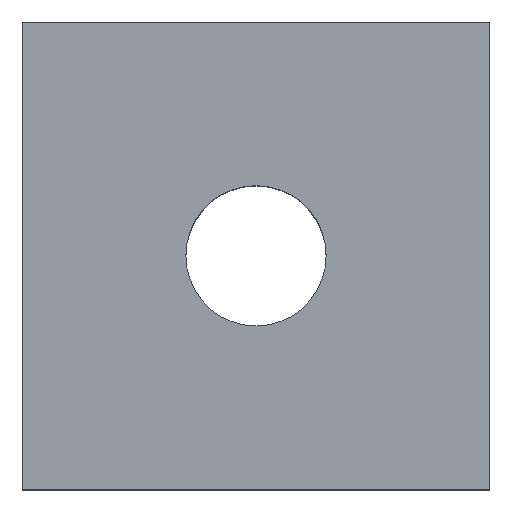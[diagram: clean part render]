
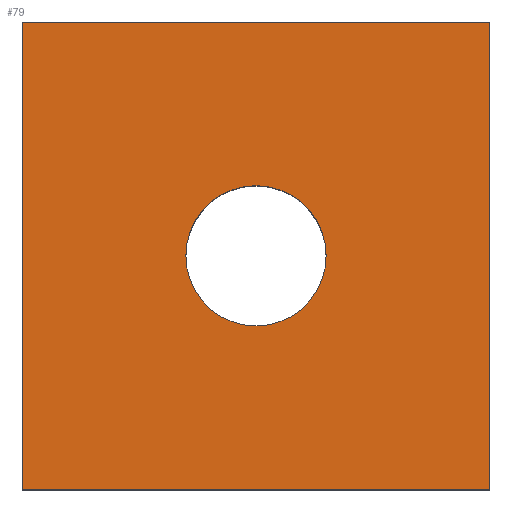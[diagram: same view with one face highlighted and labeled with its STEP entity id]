
A CAD part, top view. The second image highlights one B-rep face of the part: STEP entity #79.
In plain terms, the highlighted free-form (B-spline) face has degree [1, 1] with [2, 2] control points.
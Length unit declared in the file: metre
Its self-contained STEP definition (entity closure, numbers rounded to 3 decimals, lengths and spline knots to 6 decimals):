
#79 = ADVANCED_FACE( '', ( #93, #94 ), #95, .T. );
#93 = FACE_BOUND( '', #139, .T. );
#94 = FACE_OUTER_BOUND( '', #140, .T. );
#95 = B_SPLINE_SURFACE_WITH_KNOTS( '', 1, 1, ( ( #141, #142 ), ( #143, #144 ) ), .UNSPECIFIED., .F., .F., .F., ( 2, 2 ), ( 2, 2 ), ( 0., 1. ), ( 0., 1. ), .UNSPECIFIED. );
#139 = EDGE_LOOP( '', ( #170 ) );
#140 = EDGE_LOOP( '', ( #171, #172, #173, #174 ) );
#141 = CARTESIAN_POINT( '', ( 10.199978, 6.417879, 0.275219 ) );
#142 = CARTESIAN_POINT( '', ( 10.199978, 6.428879, 0.275219 ) );
#143 = CARTESIAN_POINT( '', ( 10.210978, 6.417879, 0.275219 ) );
#144 = CARTESIAN_POINT( '', ( 10.210978, 6.428879, 0.275219 ) );
#170 = ORIENTED_EDGE( '', *, *, #187, .F. );
#171 = ORIENTED_EDGE( '', *, *, #194, .T. );
#172 = ORIENTED_EDGE( '', *, *, #195, .T. );
#173 = ORIENTED_EDGE( '', *, *, #183, .T. );
#174 = ORIENTED_EDGE( '', *, *, #189, .T. );
#183 = EDGE_CURVE( '', #197, #198, #199, .T. );
#187 = EDGE_CURVE( '', #205, #205, #206, .T. );
#189 = EDGE_CURVE( '', #198, #209, #210, .T. );
#194 = EDGE_CURVE( '', #209, #217, #218, .T. );
#195 = EDGE_CURVE( '', #217, #197, #219, .T. );
#197 = VERTEX_POINT( '', #221 );
#198 = VERTEX_POINT( '', #222 );
#199 = LINE( '', #223, #224 );
#205 = VERTEX_POINT( '', #233 );
#206 = CIRCLE( '', #234, 0.0015 );
#209 = VERTEX_POINT( '', #237 );
#210 = LINE( '', #238, #239 );
#217 = VERTEX_POINT( '', #250 );
#218 = LINE( '', #251, #252 );
#219 = LINE( '', #253, #254 );
#221 = CARTESIAN_POINT( '', ( 10.200478, 6.418379, 0.275219 ) );
#222 = CARTESIAN_POINT( '', ( 10.210478, 6.418379, 0.275219 ) );
#223 = CARTESIAN_POINT( '', ( 10.205478, 6.418379, 0.275219 ) );
#224 = VECTOR( '', #257, 1. );
#233 = CARTESIAN_POINT( '', ( 10.206978, 6.423379, 0.275219 ) );
#234 = AXIS2_PLACEMENT_3D( '', #261, #262, #263 );
#237 = CARTESIAN_POINT( '', ( 10.210478, 6.428379, 0.275219 ) );
#238 = CARTESIAN_POINT( '', ( 10.210478, 6.423379, 0.275219 ) );
#239 = VECTOR( '', #267, 1. );
#250 = CARTESIAN_POINT( '', ( 10.200478, 6.428379, 0.275219 ) );
#251 = CARTESIAN_POINT( '', ( 10.205478, 6.428379, 0.275219 ) );
#252 = VECTOR( '', #272, 1. );
#253 = CARTESIAN_POINT( '', ( 10.200478, 6.423379, 0.275219 ) );
#254 = VECTOR( '', #273, 1. );
#257 = DIRECTION( '', ( 1., 0., 0. ) );
#261 = CARTESIAN_POINT( '', ( 10.205478, 6.423379, 0.275219 ) );
#262 = DIRECTION( '', ( 0., 0., 1. ) );
#263 = DIRECTION( '', ( 0., -1., 0. ) );
#267 = DIRECTION( '', ( 0., 1., 0. ) );
#272 = DIRECTION( '', ( -1., 0., 0. ) );
#273 = DIRECTION( '', ( 0., -1., 0. ) );
